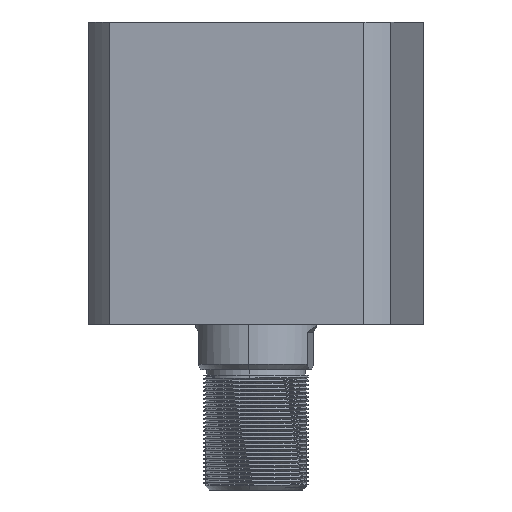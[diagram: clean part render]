
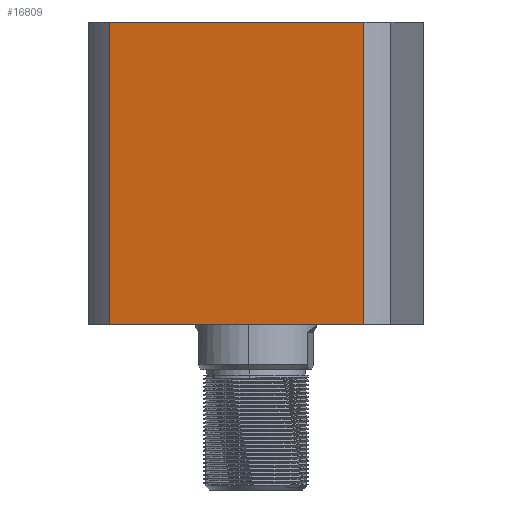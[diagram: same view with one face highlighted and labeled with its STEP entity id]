
A CAD part, left-side view. The second image highlights one B-rep face of the part: STEP entity #16809.
In plain terms, the highlighted planar face has unit normal (-0.992, 0.127, 0) as drawn and (1, 0, 0) by its records, which use the part's own axes.
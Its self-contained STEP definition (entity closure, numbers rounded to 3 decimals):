
#645 = DIRECTION ( 'NONE',  ( 0., 0., 1. ) ) ;
#851 = LINE ( 'NONE', #14723, #12930 ) ;
#869 = VERTEX_POINT ( 'NONE', #9109 ) ;
#2542 = VERTEX_POINT ( 'NONE', #19905 ) ;
#2942 = DIRECTION ( 'NONE',  ( 0., 1., 0. ) ) ;
#3190 = ORIENTED_EDGE ( 'NONE', *, *, #3565, .T. ) ;
#3565 = EDGE_CURVE ( 'NONE', #11442, #15325, #851, .T. ) ;
#4640 = CARTESIAN_POINT ( 'NONE',  ( 57., 47.971, -187. ) ) ;
#4899 = ORIENTED_EDGE ( 'NONE', *, *, #15854, .F. ) ;
#5131 = ORIENTED_EDGE ( 'NONE', *, *, #9621, .F. ) ;
#5265 = LINE ( 'NONE', #4640, #14179 ) ;
#5359 = CARTESIAN_POINT ( 'NONE',  ( 57., -47.971, -187. ) ) ;
#5960 = VECTOR ( 'NONE', #645, 1000. ) ;
#6896 = DIRECTION ( 'NONE',  ( 0., 1., 0. ) ) ;
#7082 = DIRECTION ( 'NONE',  ( 0., -1., 0. ) ) ;
#8603 = ORIENTED_EDGE ( 'NONE', *, *, #13933, .F. ) ;
#9109 = CARTESIAN_POINT ( 'NONE',  ( 57., 47.971, 113. ) ) ;
#9610 = CARTESIAN_POINT ( 'NONE',  ( 57., 47.971, 0. ) ) ;
#9621 = EDGE_CURVE ( 'NONE', #11442, #2542, #18602, .T. ) ;
#10488 = AXIS2_PLACEMENT_3D ( 'NONE', #14950, #16562, #7082 ) ;
#11412 = EDGE_LOOP ( 'NONE', ( #5131, #3190, #4899, #8603 ) ) ;
#11442 = VERTEX_POINT ( 'NONE', #11485 ) ;
#11485 = CARTESIAN_POINT ( 'NONE',  ( 57., -47.971, 0. ) ) ;
#11915 = FACE_OUTER_BOUND ( 'NONE', #11412, .T. ) ;
#12930 = VECTOR ( 'NONE', #6896, 1000. ) ;
#13280 = PLANE ( 'NONE',  #10488 ) ;
#13744 = LINE ( 'NONE', #13964, #19225 ) ;
#13933 = EDGE_CURVE ( 'NONE', #2542, #869, #13744, .T. ) ;
#13964 = CARTESIAN_POINT ( 'NONE',  ( 57., 57., 113. ) ) ;
#14179 = VECTOR ( 'NONE', #15691, 1000. ) ;
#14723 = CARTESIAN_POINT ( 'NONE',  ( 57., 57., 0. ) ) ;
#14950 = CARTESIAN_POINT ( 'NONE',  ( 57., 57., 113. ) ) ;
#15325 = VERTEX_POINT ( 'NONE', #9610 ) ;
#15691 = DIRECTION ( 'NONE',  ( 0., 0., -1. ) ) ;
#15854 = EDGE_CURVE ( 'NONE', #869, #15325, #5265, .T. ) ;
#16562 = DIRECTION ( 'NONE',  ( -1., 0., 0. ) ) ;
#16809 = ADVANCED_FACE ( 'NONE', ( #11915 ), #13280, .F. ) ;
#18602 = LINE ( 'NONE', #5359, #5960 ) ;
#19225 = VECTOR ( 'NONE', #2942, 1000. ) ;
#19905 = CARTESIAN_POINT ( 'NONE',  ( 57., -47.971, 113. ) ) ;
